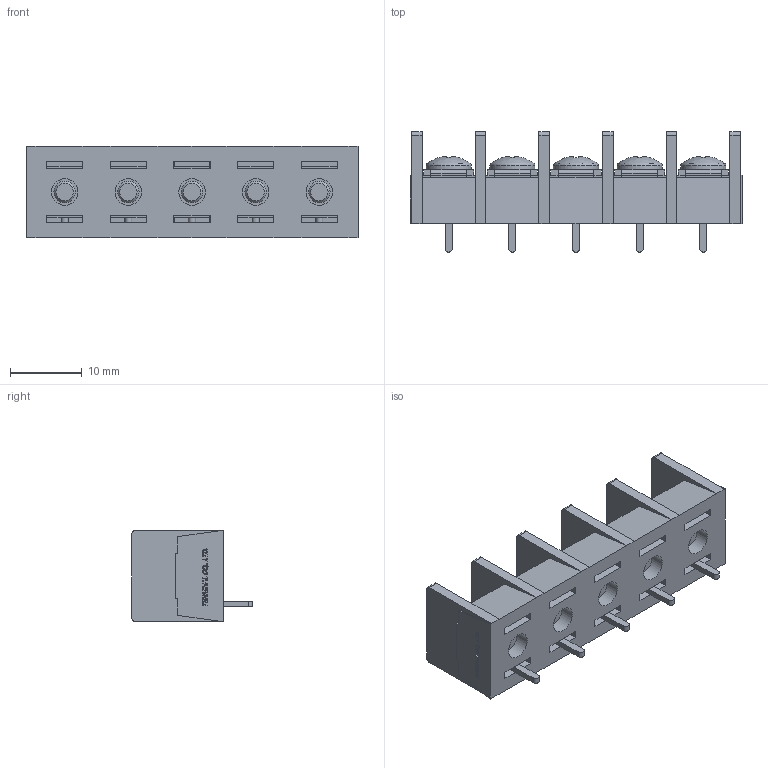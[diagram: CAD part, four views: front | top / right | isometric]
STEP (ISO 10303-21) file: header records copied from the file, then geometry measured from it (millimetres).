
FILE_DESCRIPTION(/* description */ ('Alibre Inc.'),/* implementation_level */ '2;1');
FILE_NAME(/* name */ 'export0',/* time_stamp */ '2015-10-20T08:12:35+09:00',/* author */ (''),/* organization */ (''),/* preprocessor_version */ 'ST-DEVELOPER v14',/* originating_system */ 'Alibre',/* authorisation */ '');
FILE_SCHEMA (('CONFIG_CONTROL_DESIGN'));
Length unit declared in the file: centimetre
Products named in the file (1): ID_1
Bounding box: 46.36 x 16.8 x 12.8 mm (x, y, z)
Volume: 4349.4 mm3; surface area: 5456.8 mm2
Topology: 1 solids, 86 shells, 1795 faces, 4625 edges, 3062 vertices
Faces by surface type: plane 1339, bspline 364, cylinder 52, cone 25, torus 10, sphere 5
Full cylindrical faces by diameter (mm): 3 x10, 3.7 x5, 4.6 x5, 6.3 x5
Entity records: 52016 total; most frequent: CARTESIAN_POINT 12672, ORIENTED_EDGE 9140, DIRECTION 5374, EDGE_CURVE 4570, VECTOR 3531, LINE 3531, VERTEX_POINT 3047, EDGE_LOOP 1965
